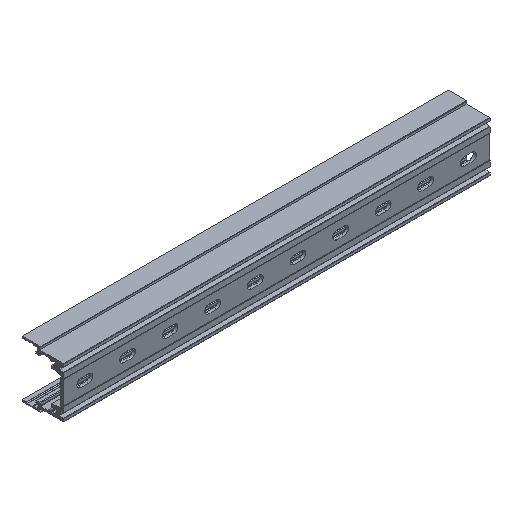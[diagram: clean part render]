
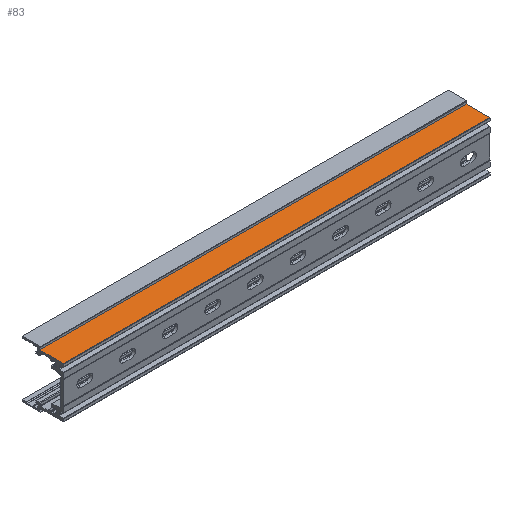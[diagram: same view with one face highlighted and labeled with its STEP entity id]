
A CAD part, isometric view. The second image highlights one B-rep face of the part: STEP entity #83.
In plain terms, the highlighted planar face has unit normal (0, 0, 1).
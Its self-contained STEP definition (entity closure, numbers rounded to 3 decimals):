
#83 = ADVANCED_FACE( '', ( #254 ), #255, .F. );
#254 = FACE_OUTER_BOUND( '', #578, .T. );
#255 = PLANE( '', #579 );
#578 = EDGE_LOOP( '', ( #972, #973, #974, #975 ) );
#579 = AXIS2_PLACEMENT_3D( '', #976, #977, #978 );
#972 = ORIENTED_EDGE( '', *, *, #2298, .T. );
#973 = ORIENTED_EDGE( '', *, *, #2299, .F. );
#974 = ORIENTED_EDGE( '', *, *, #2300, .F. );
#975 = ORIENTED_EDGE( '', *, *, #2296, .T. );
#976 = CARTESIAN_POINT( '', ( 270., 15.19, 16. ) );
#977 = DIRECTION( '', ( 0., 0., -1. ) );
#978 = DIRECTION( '', ( -1., 0., 0. ) );
#2296 = EDGE_CURVE( '', #2805, #2803, #2806, .T. );
#2298 = EDGE_CURVE( '', #2803, #2808, #2809, .T. );
#2299 = EDGE_CURVE( '', #2810, #2808, #2811, .T. );
#2300 = EDGE_CURVE( '', #2805, #2810, #2812, .T. );
#2803 = VERTEX_POINT( '', #3592 );
#2805 = VERTEX_POINT( '', #3595 );
#2806 = LINE( '', #3596, #3597 );
#2808 = VERTEX_POINT( '', #3600 );
#2809 = LINE( '', #3601, #3602 );
#2810 = VERTEX_POINT( '', #3603 );
#2811 = LINE( '', #3604, #3605 );
#2812 = LINE( '', #3606, #3607 );
#3592 = CARTESIAN_POINT( '', ( 0., 15.19, 16. ) );
#3595 = CARTESIAN_POINT( '', ( 270., 15.19, 16. ) );
#3596 = CARTESIAN_POINT( '', ( 270., 15.19, 16. ) );
#3597 = VECTOR( '', #4620, 1000. );
#3600 = CARTESIAN_POINT( '', ( 0., 0.3, 16. ) );
#3601 = CARTESIAN_POINT( '', ( 0., 15.19, 16. ) );
#3602 = VECTOR( '', #4622, 1000. );
#3603 = CARTESIAN_POINT( '', ( 270., 0.3, 16. ) );
#3604 = CARTESIAN_POINT( '', ( 270., 0.3, 16. ) );
#3605 = VECTOR( '', #4623, 1000. );
#3606 = CARTESIAN_POINT( '', ( 270., 15.19, 16. ) );
#3607 = VECTOR( '', #4624, 1000. );
#4620 = DIRECTION( '', ( -1., 0., 0. ) );
#4622 = DIRECTION( '', ( 0., -1., 0. ) );
#4623 = DIRECTION( '', ( -1., 0., 0. ) );
#4624 = DIRECTION( '', ( 0., -1., 0. ) );
